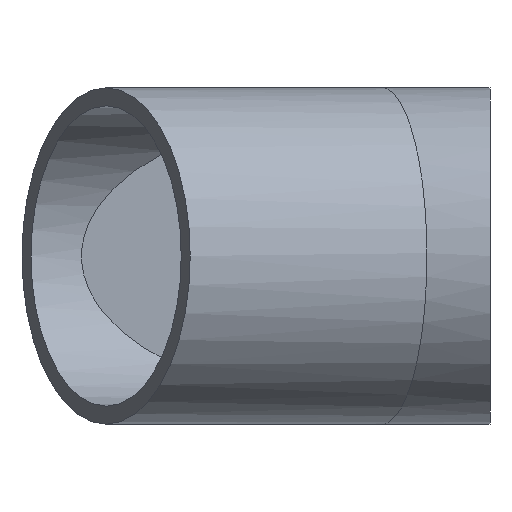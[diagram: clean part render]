
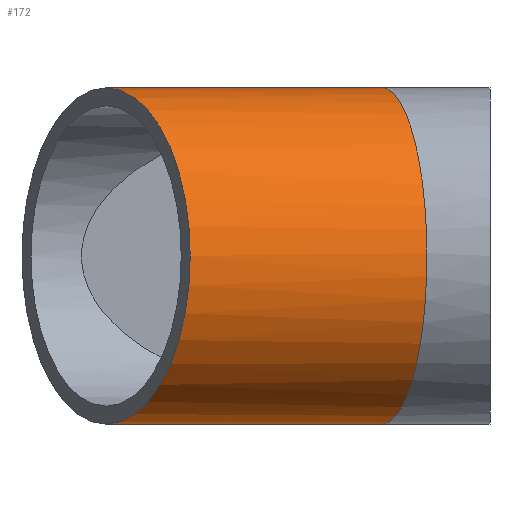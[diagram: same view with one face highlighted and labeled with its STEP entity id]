
A CAD part, left-side view. The second image highlights one B-rep face of the part: STEP entity #172.
In plain terms, the highlighted cylindrical face has radius 28 mm (diameter 56 mm), a full revolution.
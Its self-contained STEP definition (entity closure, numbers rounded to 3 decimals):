
#15=FACE_BOUND($,#47,.T.);
#27=CYLINDRICAL_SURFACE($,#194,28.);
#35=FACE_OUTER_BOUND($,#46,.T.);
#46=EDGE_LOOP($,(#123));
#47=EDGE_LOOP($,(#124,#125));
#67=ELLIPSE($,#196,56.,28.);
#68=ELLIPSE($,#197,28.988,28.);
#74=CIRCLE($,#195,28.);
#88=VERTEX_POINT($,#338);
#89=VERTEX_POINT($,#340);
#90=VERTEX_POINT($,#341);
#103=EDGE_CURVE($,#88,#88,#74,.T.);
#104=EDGE_CURVE($,#89,#90,#67,.T.);
#105=EDGE_CURVE($,#90,#89,#68,.T.);
#123=ORIENTED_EDGE($,*,*,#103,.F.);
#124=ORIENTED_EDGE($,*,*,#104,.F.);
#125=ORIENTED_EDGE($,*,*,#105,.F.);
#172=ADVANCED_FACE($,(#35,#15),#27,.T.);
#194=AXIS2_PLACEMENT_3D($,#337,#236,#237);
#195=AXIS2_PLACEMENT_3D($,#339,#238,#239);
#196=AXIS2_PLACEMENT_3D($,#342,#240,#241);
#197=AXIS2_PLACEMENT_3D($,#343,#242,#243);
#236=DIRECTION('center_axis',(-0.5,0.866,0.));
#237=DIRECTION('ref_axis',(-0.866,-0.5,0.));
#238=DIRECTION('center_axis',(-0.5,0.866,0.));
#239=DIRECTION('ref_axis',(-0.866,-0.5,0.));
#240=DIRECTION('center_axis',(1.,0.,0.));
#241=DIRECTION('ref_axis',(0.,-1.,0.));
#242=DIRECTION('center_axis',(0.259,-0.966,0.));
#243=DIRECTION('ref_axis',(-0.966,-0.259,0.));
#337=CARTESIAN_POINT('Origin',(-26.5,63.899,0.));
#338=CARTESIAN_POINT('',(-2.251,77.899,0.));
#339=CARTESIAN_POINT('Origin',(-26.5,63.899,0.));
#340=CARTESIAN_POINT('',(0.,18.,-28.));
#341=CARTESIAN_POINT('',(0.,18.,28.));
#342=CARTESIAN_POINT('Origin',(0.,18.,0.));
#343=CARTESIAN_POINT('Origin',(0.,18.,0.));
